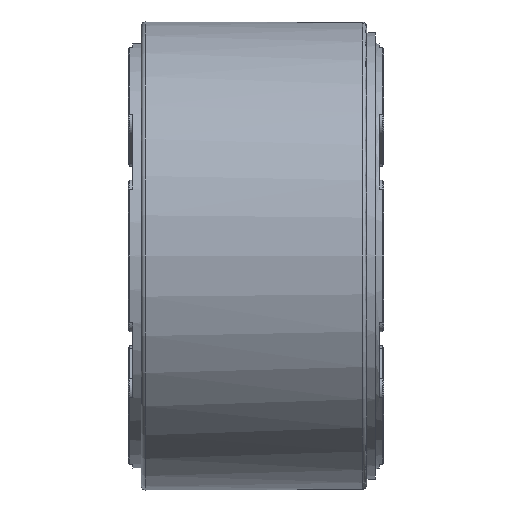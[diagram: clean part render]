
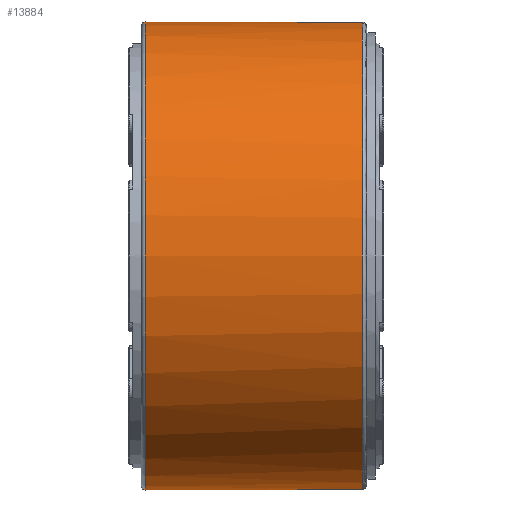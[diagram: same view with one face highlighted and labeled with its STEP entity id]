
A CAD part, left-side view. The second image highlights one B-rep face of the part: STEP entity #13884.
In plain terms, the highlighted cylindrical face has radius 55 mm (diameter 110 mm), a full revolution.
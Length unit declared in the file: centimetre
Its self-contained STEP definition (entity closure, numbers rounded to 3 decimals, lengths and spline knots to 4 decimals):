
#2933=VECTOR('',#16223,1.);
#2934=VECTOR('',#16224,1.);
#3700=LINE('',#19787,#2933);
#3701=LINE('',#19806,#2934);
#4467=B_SPLINE_CURVE_WITH_KNOTS('',3,(#19760,#19761,#19762,#19763,#19764,
#19765,#19766,#19767,#19768,#19769,#19770,#19771,#19772,#19773,#19774,#19775,
#19776,#19777,#19778,#19779,#19780,#19781,#19782,#19783,#19784),
 .UNSPECIFIED.,.F.,.U.,(4,3,3,3,3,3,3,3,4),(0.,0.0813,0.1601,
0.2094,0.2402,0.271,0.3203,0.3991,
0.4804),.UNSPECIFIED.);
#4468=B_SPLINE_CURVE_WITH_KNOTS('',3,(#19789,#19790,#19791,#19792,#19793,
#19794,#19795,#19796,#19797,#19798,#19799,#19800,#19801,#19802,#19803,#19804),
 .UNSPECIFIED.,.F.,.U.,(4,3,3,3,3,4),(0.,0.4244,1.1035,
2.0814,3.4875,4.7135),.UNSPECIFIED.);
#4469=B_SPLINE_CURVE_WITH_KNOTS('',3,(#19808,#19809,#19810,#19811,#19812,
#19813,#19814,#19815,#19816,#19817,#19818,#19819,#19820),.UNSPECIFIED.,.F.,
 .U.,(4,3,3,3,4),(0.,0.0616,0.1601,0.3178,
0.4804),.UNSPECIFIED.);
#4605=CYLINDRICAL_SURFACE('',#14675,5.5);
#4838=VERTEX_POINT('',#19756);
#4840=VERTEX_POINT('',#19785);
#4841=VERTEX_POINT('',#19786);
#4842=VERTEX_POINT('',#19788);
#4843=VERTEX_POINT('',#19805);
#4844=VERTEX_POINT('',#19807);
#4845=VERTEX_POINT('',#19821);
#5996=CIRCLE('',#14673,5.5);
#5998=CIRCLE('',#14676,5.5);
#6689=EDGE_CURVE('',#4838,#4838,#5996,.T.);
#6691=EDGE_CURVE('',#4840,#4841,#4467,.T.);
#6692=EDGE_CURVE('',#4842,#4840,#3700,.T.);
#6693=EDGE_CURVE('',#4843,#4842,#4468,.F.);
#6694=EDGE_CURVE('',#4844,#4843,#3701,.T.);
#6695=EDGE_CURVE('',#4845,#4844,#4469,.T.);
#6696=EDGE_CURVE('',#4841,#4845,#5998,.T.);
#8330=ORIENTED_EDGE('',*,*,#6691,.F.);
#8331=ORIENTED_EDGE('',*,*,#6692,.F.);
#8332=ORIENTED_EDGE('',*,*,#6693,.F.);
#8333=ORIENTED_EDGE('',*,*,#6694,.F.);
#8334=ORIENTED_EDGE('',*,*,#6695,.F.);
#8335=ORIENTED_EDGE('',*,*,#6696,.F.);
#8336=ORIENTED_EDGE('',*,*,#6689,.F.);
#11608=EDGE_LOOP('',(#8330,#8331,#8332,#8333,#8334,#8335));
#11609=EDGE_LOOP('',(#8336));
#12736=FACE_BOUND('',#11608,.T.);
#12737=FACE_BOUND('',#11609,.T.);
#13884=ADVANCED_FACE('',(#12736,#12737),#4605,.T.);
#14673=AXIS2_PLACEMENT_3D('',#19755,#16217,#16218);
#14675=AXIS2_PLACEMENT_3D('',#19759,#16221,#16222);
#14676=AXIS2_PLACEMENT_3D('',#19822,#16225,#16226);
#16217=DIRECTION('',(0.,1.,0.));
#16218=DIRECTION('',(5.5,0.,0.));
#16221=DIRECTION('',(0.,1.,0.));
#16222=DIRECTION('',(-5.5,0.,0.));
#16223=DIRECTION('',(0.,-1.,0.));
#16224=DIRECTION('',(0.,1.,0.));
#16225=DIRECTION('',(0.,-1.,0.));
#16226=DIRECTION('',(-5.5,0.,0.));
#19755=CARTESIAN_POINT('',(0.,4.1,0.));
#19756=CARTESIAN_POINT('',(-5.5,4.1,0.));
#19759=CARTESIAN_POINT('',(0.,1.55,0.));
#19760=CARTESIAN_POINT('',(5.2835,-0.7,1.5278));
#19761=CARTESIAN_POINT('',(5.2835,-0.7271,1.5278));
#19762=CARTESIAN_POINT('',(5.2824,-0.7546,1.5316));
#19763=CARTESIAN_POINT('',(5.2803,-0.7808,1.5391));
#19764=CARTESIAN_POINT('',(5.2782,-0.8062,1.5463));
#19765=CARTESIAN_POINT('',(5.2751,-0.8304,1.5569));
#19766=CARTESIAN_POINT('',(5.271,-0.853,1.5705));
#19767=CARTESIAN_POINT('',(5.2685,-0.8671,1.579));
#19768=CARTESIAN_POINT('',(5.2656,-0.8804,1.5887));
#19769=CARTESIAN_POINT('',(5.2624,-0.8928,1.5993));
#19770=CARTESIAN_POINT('',(5.2603,-0.9006,1.6059));
#19771=CARTESIAN_POINT('',(5.2582,-0.908,1.6129));
#19772=CARTESIAN_POINT('',(5.2559,-0.915,1.6202));
#19773=CARTESIAN_POINT('',(5.2537,-0.922,1.6275));
#19774=CARTESIAN_POINT('',(5.2513,-0.9286,1.6353));
#19775=CARTESIAN_POINT('',(5.2488,-0.9349,1.6433));
#19776=CARTESIAN_POINT('',(5.2448,-0.9449,1.6561));
#19777=CARTESIAN_POINT('',(5.2404,-0.9539,1.6697));
#19778=CARTESIAN_POINT('',(5.2359,-0.9617,1.6839));
#19779=CARTESIAN_POINT('',(5.2286,-0.9741,1.7065));
#19780=CARTESIAN_POINT('',(5.2208,-0.9836,1.7304));
#19781=CARTESIAN_POINT('',(5.2124,-0.99,1.7553));
#19782=CARTESIAN_POINT('',(5.2038,-0.9967,1.7809));
#19783=CARTESIAN_POINT('',(5.1947,-1.,1.8073));
#19784=CARTESIAN_POINT('',(5.1854,-1.,1.8333));
#19785=CARTESIAN_POINT('',(5.2835,-0.7,1.5278));
#19786=CARTESIAN_POINT('',(5.1854,-1.,1.8333));
#19787=CARTESIAN_POINT('',(5.2835,1.55,1.5278));
#19788=CARTESIAN_POINT('',(5.2835,1.3,1.5278));
#19789=CARTESIAN_POINT('',(5.2835,1.3,1.5278));
#19790=CARTESIAN_POINT('',(5.2835,1.4415,1.5278));
#19791=CARTESIAN_POINT('',(5.2897,1.5849,1.5069));
#19792=CARTESIAN_POINT('',(5.3009,1.7213,1.4663));
#19793=CARTESIAN_POINT('',(5.3189,1.9395,1.4012));
#19794=CARTESIAN_POINT('',(5.3501,2.1417,1.2852));
#19795=CARTESIAN_POINT('',(5.3824,2.3083,1.1312));
#19796=CARTESIAN_POINT('',(5.429,2.5481,0.9094));
#19797=CARTESIAN_POINT('',(5.4764,2.7156,0.6045));
#19798=CARTESIAN_POINT('',(5.493,2.775,0.278));
#19799=CARTESIAN_POINT('',(5.5167,2.8603,-0.1915));
#19800=CARTESIAN_POINT('',(5.467,2.714,-0.6982));
#19801=CARTESIAN_POINT('',(5.3996,2.3934,-1.0459));
#19802=CARTESIAN_POINT('',(5.3409,2.1139,-1.349));
#19803=CARTESIAN_POINT('',(5.2835,1.7087,-1.5278));
#19804=CARTESIAN_POINT('',(5.2835,1.3,-1.5278));
#19805=CARTESIAN_POINT('',(5.2835,1.3,-1.5278));
#19806=CARTESIAN_POINT('',(5.2835,1.55,-1.5278));
#19807=CARTESIAN_POINT('',(5.2835,-0.7,-1.5278));
#19808=CARTESIAN_POINT('',(5.1854,-1.,-1.8333));
#19809=CARTESIAN_POINT('',(5.1924,-1.,-1.8136));
#19810=CARTESIAN_POINT('',(5.1993,-0.9981,-1.7937));
#19811=CARTESIAN_POINT('',(5.206,-0.9943,-1.774));
#19812=CARTESIAN_POINT('',(5.2168,-0.9882,-1.7426));
#19813=CARTESIAN_POINT('',(5.2268,-0.9773,-1.7122));
#19814=CARTESIAN_POINT('',(5.2359,-0.9617,-1.6839));
#19815=CARTESIAN_POINT('',(5.2504,-0.9367,-1.6386));
#19816=CARTESIAN_POINT('',(5.2624,-0.8999,-1.5994));
#19817=CARTESIAN_POINT('',(5.2706,-0.8551,-1.5718));
#19818=CARTESIAN_POINT('',(5.2791,-0.8088,-1.5433));
#19819=CARTESIAN_POINT('',(5.2835,-0.7542,-1.5278));
#19820=CARTESIAN_POINT('',(5.2835,-0.7,-1.5278));
#19821=CARTESIAN_POINT('',(5.1854,-1.,-1.8333));
#19822=CARTESIAN_POINT('',(0.,-1.,0.));
